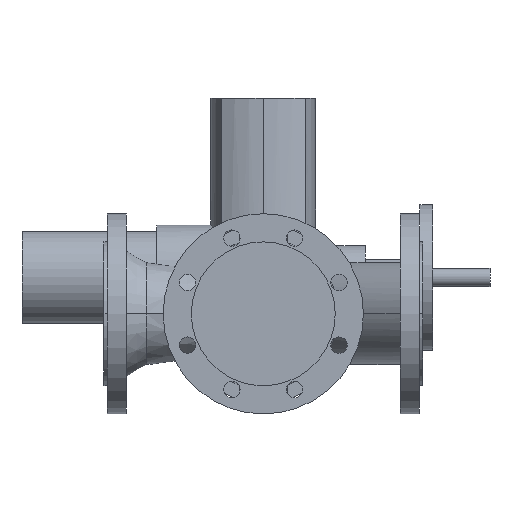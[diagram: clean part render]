
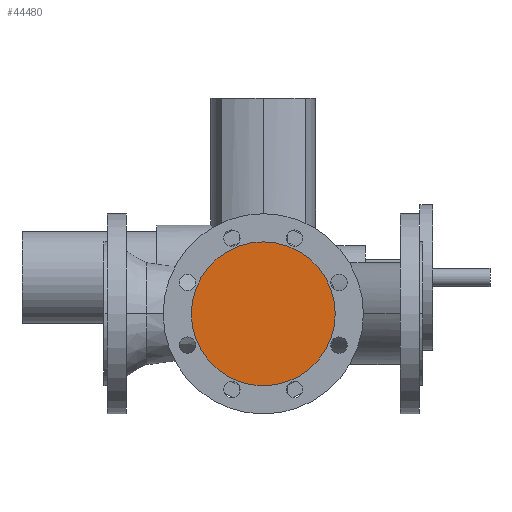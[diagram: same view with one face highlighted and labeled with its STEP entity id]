
A CAD part, front view. The second image highlights one B-rep face of the part: STEP entity #44480.
In plain terms, the highlighted planar face has unit normal (0, -1, 0).
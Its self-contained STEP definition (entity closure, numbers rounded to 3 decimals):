
#3360=CARTESIAN_POINT('',(96.,-150.,0.));
#3370=VERTEX_POINT('',#3360);
#3400=CARTESIAN_POINT('',(175.,-150.,0.));
#3410=DIRECTION('',(0.,1.,0.));
#3420=DIRECTION('',(1.,0.,0.));
#3430=AXIS2_PLACEMENT_3D('',#3400,#3410,#3420);
#3440=CIRCLE('',#3430,79.);
#3450=CARTESIAN_POINT('',(254.,-150.,0.));
#3460=VERTEX_POINT('',#3450);
#3470=EDGE_CURVE('',#3460,#3370,#3440,.T.);
#44380=CARTESIAN_POINT('',(214.5,-150.,0.));
#44390=DIRECTION('',(0.,-1.,0.));
#44400=DIRECTION('',(-1.,0.,0.));
#44410=AXIS2_PLACEMENT_3D('',#44380,#44390,#44400);
#44420=PLANE('',#44410);
#44430=EDGE_CURVE('',#3370,#3460,#3440,.T.);
#44440=ORIENTED_EDGE('',*,*,#44430,.F.);
#44450=ORIENTED_EDGE('',*,*,#3470,.F.);
#44460=EDGE_LOOP('',(#44450,#44440));
#44470=FACE_OUTER_BOUND('',#44460,.T.);
#44480=ADVANCED_FACE('',(#44470),#44420,.T.);
